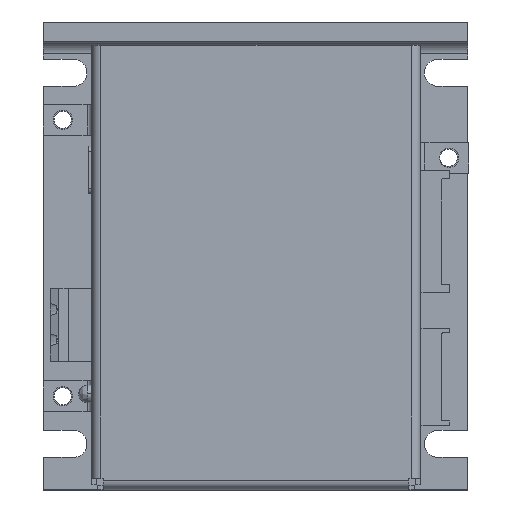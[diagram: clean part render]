
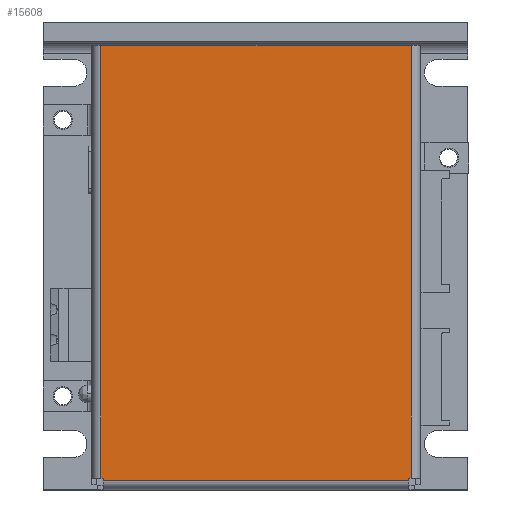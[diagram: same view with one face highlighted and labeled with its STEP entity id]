
A CAD part, top view. The second image highlights one B-rep face of the part: STEP entity #15608.
In plain terms, the highlighted planar face has unit normal (0, 0, 1).
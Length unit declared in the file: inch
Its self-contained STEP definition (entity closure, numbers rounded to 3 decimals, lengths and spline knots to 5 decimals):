
#7274 = EDGE_LOOP ( 'NONE', ( #14438, #14439, #14440, #14441, #14442, #14443, #14444, #14445 ) ) ;
#14438 = ORIENTED_EDGE ( 'NONE', *, *, #16010, .T. ) ;
#14439 = ORIENTED_EDGE ( 'NONE', *, *, #16011, .T. ) ;
#14440 = ORIENTED_EDGE ( 'NONE', *, *, #16002, .T. ) ;
#14441 = ORIENTED_EDGE ( 'NONE', *, *, #16004, .T. ) ;
#14442 = ORIENTED_EDGE ( 'NONE', *, *, #16028, .T. ) ;
#14443 = ORIENTED_EDGE ( 'NONE', *, *, #16029, .T. ) ;
#14444 = ORIENTED_EDGE ( 'NONE', *, *, #16030, .T. ) ;
#14445 = ORIENTED_EDGE ( 'NONE', *, *, #16008, .T. ) ;
#15608 = ADVANCED_FACE ( 'NONE', ( #17859 ), #17843, .T. ) ;
#16002 = EDGE_CURVE ( 'NONE', #52975, #52982, #38187, .T. ) ;
#16004 = EDGE_CURVE ( 'NONE', #52982, #53001, #38209, .T. ) ;
#16008 = EDGE_CURVE ( 'NONE', #53002, #53004, #38224, .T. ) ;
#16010 = EDGE_CURVE ( 'NONE', #53004, #53005, #38235, .T. ) ;
#16011 = EDGE_CURVE ( 'NONE', #53005, #52975, #38256, .T. ) ;
#16028 = EDGE_CURVE ( 'NONE', #53001, #53017, #38344, .T. ) ;
#16029 = EDGE_CURVE ( 'NONE', #53017, #53019, #38348, .T. ) ;
#16030 = EDGE_CURVE ( 'NONE', #53019, #53002, #38355, .T. ) ;
#17843 = PLANE ( 'NONE',  #22271 ) ;
#17859 = FACE_OUTER_BOUND ( 'NONE', #7274, .T. ) ;
#17871 = CARTESIAN_POINT ( 'NONE',  ( -1.0025, -1.4375, 0.875 ) ) ;
#17872 = DIRECTION ( 'NONE',  ( 0., 0., 1. ) ) ;
#17873 = DIRECTION ( 'NONE',  ( 1., 0., 0. ) ) ;
#22271 = AXIS2_PLACEMENT_3D ( 'NONE', #17871, #17872, #17873 ) ;
#31578 = VECTOR ( 'NONE', #38210, 39.37008 ) ;
#31584 = VECTOR ( 'NONE', #38222, 39.37008 ) ;
#31593 = VECTOR ( 'NONE', #38243, 39.37008 ) ;
#31599 = VECTOR ( 'NONE', #38254, 39.37008 ) ;
#31602 = VECTOR ( 'NONE', #38260, 39.37008 ) ;
#31632 = VECTOR ( 'NONE', #38347, 39.37008 ) ;
#31634 = VECTOR ( 'NONE', #38353, 39.37008 ) ;
#31636 = VECTOR ( 'NONE', #38358, 39.37008 ) ;
#38187 = LINE ( 'NONE', #38189, #31578 ) ;
#38189 = CARTESIAN_POINT ( 'NONE',  ( 0., 1.3625, 0.875 ) ) ;
#38201 = CARTESIAN_POINT ( 'NONE',  ( -1.0025, -0.03, 0.875 ) ) ;
#38209 = LINE ( 'NONE', #38201, #31584 ) ;
#38210 = DIRECTION ( 'NONE',  ( -1., 0., 0. ) ) ;
#38212 = CARTESIAN_POINT ( 'NONE',  ( 0.9875, -0.03, 0.875 ) ) ;
#38222 = DIRECTION ( 'NONE',  ( 0., -1., 0. ) ) ;
#38224 = LINE ( 'NONE', #38212, #31593 ) ;
#38235 = LINE ( 'NONE', #38236, #31599 ) ;
#38236 = CARTESIAN_POINT ( 'NONE',  ( 0., 1.3775, 0.875 ) ) ;
#38243 = DIRECTION ( 'NONE',  ( 0., 1., 0. ) ) ;
#38254 = DIRECTION ( 'NONE',  ( -1., 0., 0. ) ) ;
#38256 = LINE ( 'NONE', #38258, #31602 ) ;
#38258 = CARTESIAN_POINT ( 'NONE',  ( -0.9875, -0.03, 0.875 ) ) ;
#38260 = DIRECTION ( 'NONE',  ( 0., -1., 0. ) ) ;
#38344 = LINE ( 'NONE', #38345, #31632 ) ;
#38345 = CARTESIAN_POINT ( 'NONE',  ( 0., -1.4375, 0.875 ) ) ;
#38347 = DIRECTION ( 'NONE',  ( 1., 0., 0. ) ) ;
#38348 = LINE ( 'NONE', #38351, #31634 ) ;
#38351 = CARTESIAN_POINT ( 'NONE',  ( 1.0025, -0.0375, 0.875 ) ) ;
#38353 = DIRECTION ( 'NONE',  ( 0., 1., 0. ) ) ;
#38355 = LINE ( 'NONE', #38357, #31636 ) ;
#38357 = CARTESIAN_POINT ( 'NONE',  ( 0., 1.3625, 0.875 ) ) ;
#38358 = DIRECTION ( 'NONE',  ( -1., 0., 0. ) ) ;
#52975 = VERTEX_POINT ( 'NONE', #57812 ) ;
#52982 = VERTEX_POINT ( 'NONE', #57819 ) ;
#53001 = VERTEX_POINT ( 'NONE', #57838 ) ;
#53002 = VERTEX_POINT ( 'NONE', #57839 ) ;
#53004 = VERTEX_POINT ( 'NONE', #57841 ) ;
#53005 = VERTEX_POINT ( 'NONE', #57842 ) ;
#53017 = VERTEX_POINT ( 'NONE', #57854 ) ;
#53019 = VERTEX_POINT ( 'NONE', #57856 ) ;
#57812 = CARTESIAN_POINT ( 'NONE',  ( -0.9875, 1.3625, 0.875 ) ) ;
#57819 = CARTESIAN_POINT ( 'NONE',  ( -1.0025, 1.3625, 0.875 ) ) ;
#57838 = CARTESIAN_POINT ( 'NONE',  ( -1.0025, -1.4375, 0.875 ) ) ;
#57839 = CARTESIAN_POINT ( 'NONE',  ( 0.9875, 1.3625, 0.875 ) ) ;
#57841 = CARTESIAN_POINT ( 'NONE',  ( 0.9875, 1.3775, 0.875 ) ) ;
#57842 = CARTESIAN_POINT ( 'NONE',  ( -0.9875, 1.3775, 0.875 ) ) ;
#57854 = CARTESIAN_POINT ( 'NONE',  ( 1.0025, -1.4375, 0.875 ) ) ;
#57856 = CARTESIAN_POINT ( 'NONE',  ( 1.0025, 1.3625, 0.875 ) ) ;
